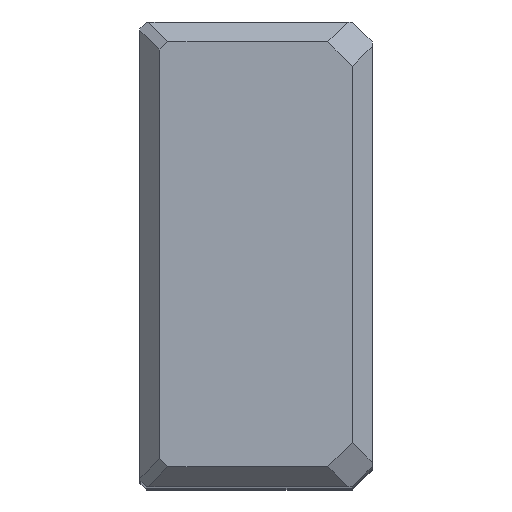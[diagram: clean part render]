
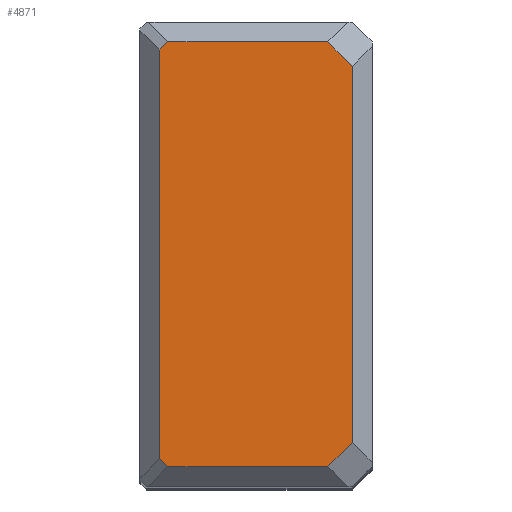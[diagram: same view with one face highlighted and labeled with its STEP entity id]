
A CAD part, top view. The second image highlights one B-rep face of the part: STEP entity #4871.
In plain terms, the highlighted planar face has unit normal (0, 0, 1).
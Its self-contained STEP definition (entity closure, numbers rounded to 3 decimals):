
#111=VERTEX_POINT(' ',#112);
#112=CARTESIAN_POINT('',(-3.,-28.326,0.));
#113=VERTEX_POINT(' ',#114);
#114=CARTESIAN_POINT('',(-6.674,-32.,0.));
#143=VERTEX_POINT(' ',#144);
#144=CARTESIAN_POINT('',(-3.,28.326,0.));
#151=VERTEX_POINT(' ',#152);
#152=CARTESIAN_POINT('',(-6.674,32.,0.));
#181=VERTEX_POINT(' ',#182);
#182=CARTESIAN_POINT('',(-30.775,-32.,0.));
#189=VERTEX_POINT(' ',#190);
#190=CARTESIAN_POINT('',(-32.,-30.775,0.));
#207=VERTEX_POINT(' ',#208);
#208=CARTESIAN_POINT('',(-32.,30.775,0.));
#211=VERTEX_POINT(' ',#212);
#212=CARTESIAN_POINT('',(-30.775,32.,0.));
#1020=LINE('',#1021,#1022);
#1021=CARTESIAN_POINT('',(12.663,-12.663,0.));
#1022=VECTOR('',#1023,1.);
#1023=DIRECTION('',(0.707,0.707,0.));
#1024=EDGE_CURVE(' ',#111,#113,#1020,.F.);
#1150=LINE('',#1151,#1152);
#1151=CARTESIAN_POINT('',(-3.,-35.12,0.));
#1152=VECTOR('',#1153,1.);
#1153=DIRECTION('',(0.,1.,0.));
#1154=EDGE_CURVE(' ',#111,#143,#1150,.T.);
#1175=LINE('',#1176,#1177);
#1176=CARTESIAN_POINT('',(12.663,12.663,0.));
#1177=VECTOR('',#1178,1.);
#1178=DIRECTION('',(-0.707,0.707,0.));
#1179=EDGE_CURVE(' ',#151,#143,#1175,.F.);
#1340=LINE('',#1341,#1342);
#1341=CARTESIAN_POINT('',(-35.12,-32.,0.));
#1342=VECTOR('',#1343,1.);
#1343=DIRECTION('',(1.,0.,0.));
#1344=EDGE_CURVE(' ',#181,#113,#1340,.T.);
#1355=LINE('',#1356,#1357);
#1356=CARTESIAN_POINT('',(-31.388,-31.388,0.));
#1357=VECTOR('',#1358,1.);
#1358=DIRECTION('',(0.707,-0.707,0.));
#1359=EDGE_CURVE(' ',#181,#189,#1355,.F.);
#1447=LINE('',#1448,#1449);
#1448=CARTESIAN_POINT('',(-32.,-35.12,0.));
#1449=VECTOR('',#1450,1.);
#1450=DIRECTION('',(0.,1.,0.));
#1451=EDGE_CURVE(' ',#189,#207,#1447,.T.);
#1452=LINE('',#1453,#1454);
#1453=CARTESIAN_POINT('',(-31.388,31.388,0.));
#1454=VECTOR('',#1455,1.);
#1455=DIRECTION('',(-0.707,-0.707,0.));
#1456=EDGE_CURVE(' ',#207,#211,#1452,.F.);
#1457=LINE('',#1458,#1459);
#1458=CARTESIAN_POINT('',(-35.12,32.,0.));
#1459=VECTOR('',#1460,1.);
#1460=DIRECTION('',(1.,0.,0.));
#1461=EDGE_CURVE(' ',#151,#211,#1457,.F.);
#4856=ORIENTED_EDGE('',*,*,#1456,.F.);
#4857=ORIENTED_EDGE('',*,*,#1451,.F.);
#4858=ORIENTED_EDGE('',*,*,#1359,.F.);
#4859=ORIENTED_EDGE('',*,*,#1344,.T.);
#4860=ORIENTED_EDGE('',*,*,#1024,.F.);
#4861=ORIENTED_EDGE('',*,*,#1154,.T.);
#4862=ORIENTED_EDGE('',*,*,#1179,.F.);
#4863=ORIENTED_EDGE('',*,*,#1461,.T.);
#4864=EDGE_LOOP('',(#4856,#4857,#4858,#4859,#4860,#4861,#4862,#4863));
#4865=FACE_OUTER_BOUND('',#4864,.T.);
#4866=PLANE('',#4867);
#4867=AXIS2_PLACEMENT_3D('',#4868,#4869,#4870);
#4868=CARTESIAN_POINT('',(-32.,0.,0.));
#4869=DIRECTION('',(0.,0.,1.));
#4870=DIRECTION('',(1.,0.,0.));
#4871=ADVANCED_FACE('',(#4865),#4866,.T.);
